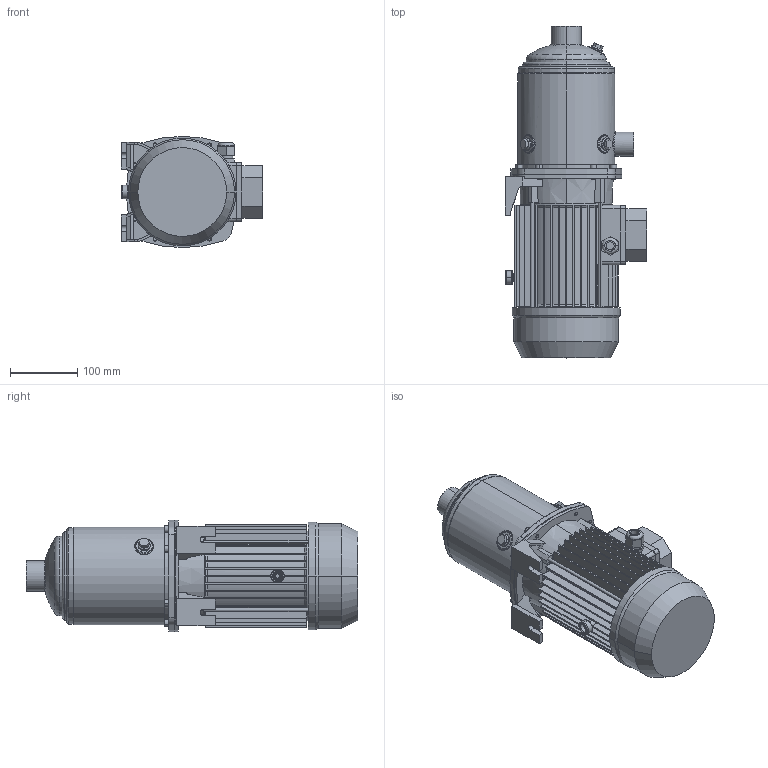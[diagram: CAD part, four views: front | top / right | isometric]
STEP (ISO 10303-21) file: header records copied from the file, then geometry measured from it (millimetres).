
FILE_DESCRIPTION((''),'2;1');
FILE_NAME('MATRIX_5-6T_1_3_IE3_ASM','2018-06-01T',('rosa'),('"Ebara Pumps Europe +39.444.706811"'),'PRO/ENGINEER BY PARAMETRIC TECHNOLOGY CORPORATION, 2012130','PRO/ENGINEER BY PARAMETRIC TECHNOLOGY CORPORATION, 2012130','');
FILE_SCHEMA(('AUTOMOTIVE_DESIGN { 1 0 10303 214 1 1 1 1 }'));
Length unit declared in the file: millimetre
Products named in the file (5): CORPO_POMPA_MATRIX_5-6; SUPPORTO_MATRIX_MEC_80; MEC_80X130_IE3; 72229; MATRIX_5-6T_1_3_IE3_ASM
Assembly tree (4 placements, depth 2):
  MATRIX_5-6T_1_3_IE3_ASM
    CORPO_POMPA_MATRIX_5-6
    SUPPORTO_MATRIX_MEC_80
    MEC_80X130_IE3
    72229
Bounding box: 209 x 491.8 x 165 mm (x, y, z)
Volume: 5754449.3 mm3; surface area: 589029.1 mm2
Topology: 4 solids, 4 shells, 718 faces, 1729 edges, 1067 vertices
Faces by surface type: plane 377, cylinder 186, cone 102, torus 37, bspline 14, sphere 2
Entity records: 28173 total; most frequent: CARTESIAN_POINT 5456, DIRECTION 3658, ORIENTED_EDGE 3458, EDGE_CURVE 1729, PRESENTATION_STYLE_ASSIGNMENT 1682, STYLED_ITEM 1682, CURVE_STYLE 1679, AXIS2_PLACEMENT_3D 1400
